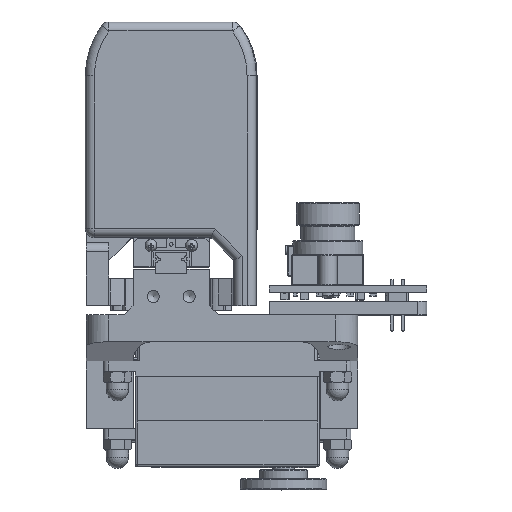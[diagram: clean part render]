
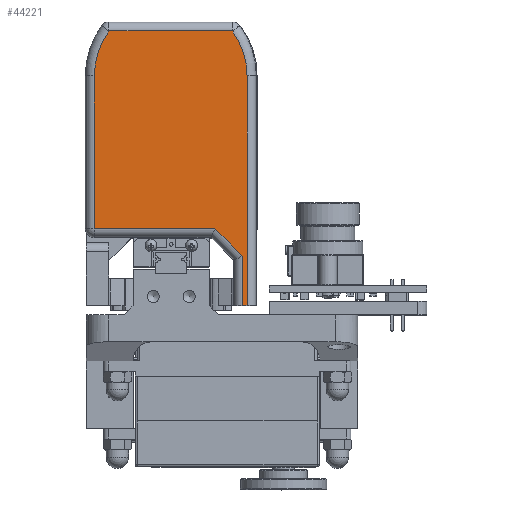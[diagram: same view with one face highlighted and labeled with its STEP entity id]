
A CAD part, top view. The second image highlights one B-rep face of the part: STEP entity #44221.
In plain terms, the highlighted planar face has unit normal (0, 0, 1) as drawn and (1, 0, 0) by its records, which use the part's own axes.
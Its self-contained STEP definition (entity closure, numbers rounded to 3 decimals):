
#3633=FACE_OUTER_BOUND('',#6362,.T.);
#6362=EDGE_LOOP('',(#32042,#32043,#32044,#32045,#32046,#32047,#32048,#32049,
#32050));
#9069=CIRCLE('',#47460,17.);
#9070=CIRCLE('',#47461,17.);
#11253=LINE('',#70141,#15615);
#11254=LINE('',#70145,#15616);
#11256=LINE('',#70151,#15618);
#11258=LINE('',#70158,#15620);
#11259=LINE('',#70162,#15621);
#11260=LINE('',#70164,#15622);
#11261=LINE('',#70168,#15623);
#15615=VECTOR('',#53334,10.);
#15616=VECTOR('',#53339,10.);
#15618=VECTOR('',#53345,10.);
#15620=VECTOR('',#53355,10.);
#15621=VECTOR('',#53360,10.);
#15622=VECTOR('',#53361,10.);
#15623=VECTOR('',#53364,10.);
#19953=VERTEX_POINT('',#70138);
#19954=VERTEX_POINT('',#70140);
#19955=VERTEX_POINT('',#70144);
#19957=VERTEX_POINT('',#70150);
#19958=VERTEX_POINT('',#70157);
#19959=VERTEX_POINT('',#70161);
#19960=VERTEX_POINT('',#70163);
#19961=VERTEX_POINT('',#70165);
#19962=VERTEX_POINT('',#70167);
#24322=EDGE_CURVE('',#19953,#19954,#11253,.T.);
#24324=EDGE_CURVE('',#19954,#19955,#11254,.T.);
#24327=EDGE_CURVE('',#19955,#19957,#11256,.T.);
#24331=EDGE_CURVE('',#19957,#19958,#11258,.T.);
#24333=EDGE_CURVE('',#19953,#19959,#11259,.T.);
#24334=EDGE_CURVE('',#19960,#19959,#11260,.T.);
#24335=EDGE_CURVE('',#19961,#19960,#9069,.T.);
#24336=EDGE_CURVE('',#19962,#19961,#11261,.T.);
#24337=EDGE_CURVE('',#19958,#19962,#9070,.T.);
#32042=ORIENTED_EDGE('',*,*,#24327,.F.);
#32043=ORIENTED_EDGE('',*,*,#24324,.F.);
#32044=ORIENTED_EDGE('',*,*,#24322,.F.);
#32045=ORIENTED_EDGE('',*,*,#24333,.T.);
#32046=ORIENTED_EDGE('',*,*,#24334,.F.);
#32047=ORIENTED_EDGE('',*,*,#24335,.F.);
#32048=ORIENTED_EDGE('',*,*,#24336,.F.);
#32049=ORIENTED_EDGE('',*,*,#24337,.F.);
#32050=ORIENTED_EDGE('',*,*,#24331,.F.);
#42518=PLANE('',#47459);
#44221=ADVANCED_FACE('',(#3633),#42518,.T.);
#47459=AXIS2_PLACEMENT_3D('',#70160,#53358,#53359);
#47460=AXIS2_PLACEMENT_3D('',#70166,#53362,#53363);
#47461=AXIS2_PLACEMENT_3D('',#70169,#53365,#53366);
#53334=DIRECTION('',(0.,0.,-1.));
#53339=DIRECTION('',(0.,0.707,-0.707));
#53345=DIRECTION('',(0.,1.,0.));
#53355=DIRECTION('',(0.,0.,-1.));
#53358=DIRECTION('center_axis',(1.,0.,0.));
#53359=DIRECTION('ref_axis',(0.,0.,-1.));
#53360=DIRECTION('',(0.,-1.,0.));
#53361=DIRECTION('',(0.,0.,1.));
#53362=DIRECTION('center_axis',(-1.,0.,0.));
#53363=DIRECTION('ref_axis',(0.,-0.942,-0.335));
#53364=DIRECTION('',(0.,-1.,0.));
#53365=DIRECTION('center_axis',(-1.,0.,0.));
#53366=DIRECTION('ref_axis',(0.,0.942,-0.335));
#70138=CARTESIAN_POINT('',(48.14,-2.,3.));
#70140=CARTESIAN_POINT('',(48.14,-2.,-7.928));
#70141=CARTESIAN_POINT('',(48.14,-2.,-3.775));
#70144=CARTESIAN_POINT('',(48.14,4.172,-14.1));
#70145=CARTESIAN_POINT('',(48.14,3.448,-13.377));
#70150=CARTESIAN_POINT('',(48.14,31.,-14.1));
#70151=CARTESIAN_POINT('',(48.14,5.75,-14.1));
#70157=CARTESIAN_POINT('',(48.14,31.,-48.1));
#70158=CARTESIAN_POINT('',(48.14,31.,-9.825));
#70160=CARTESIAN_POINT('Origin',(48.14,14.,-7.55));
#70161=CARTESIAN_POINT('',(48.14,-3.,3.));
#70162=CARTESIAN_POINT('',(48.14,0.,3.));
#70163=CARTESIAN_POINT('',(48.14,-3.,-48.1));
#70164=CARTESIAN_POINT('',(48.14,-3.,-3.775));
#70165=CARTESIAN_POINT('',(48.14,0.252,-58.1));
#70166=CARTESIAN_POINT('Origin',(48.14,14.,-48.1));
#70167=CARTESIAN_POINT('',(48.14,27.748,-58.1));
#70168=CARTESIAN_POINT('',(48.14,21.365,-58.1));
#70169=CARTESIAN_POINT('Origin',(48.14,14.,-48.1));
